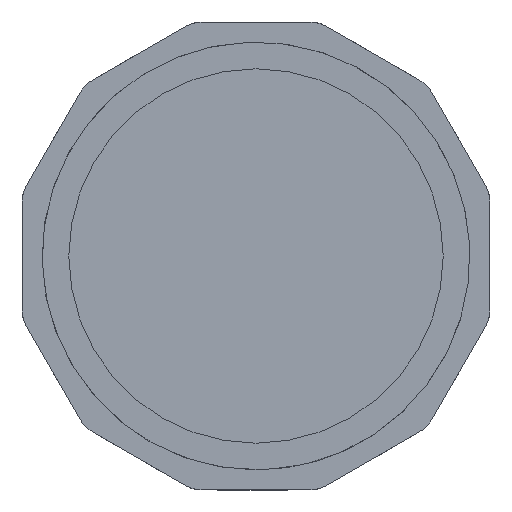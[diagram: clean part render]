
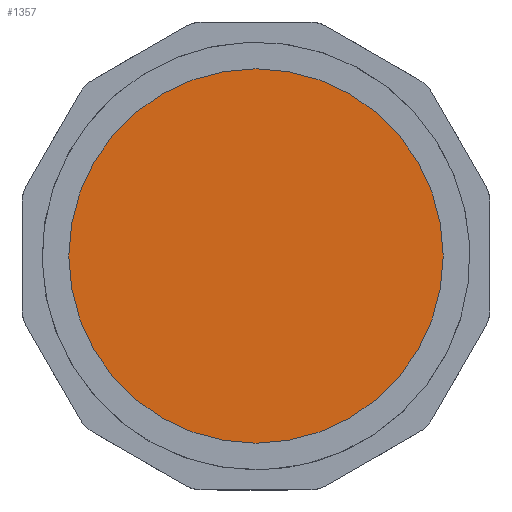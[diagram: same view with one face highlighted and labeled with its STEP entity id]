
A CAD part, front view. The second image highlights one B-rep face of the part: STEP entity #1357.
In plain terms, the highlighted planar face has unit normal (0, -1, 0).
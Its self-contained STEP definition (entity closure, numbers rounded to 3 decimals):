
#255 = CIRCLE ( 'NONE', #1270, 14. ) ;
#256 = ORIENTED_EDGE ( 'NONE', *, *, #813, .T. ) ;
#272 = VERTEX_POINT ( 'NONE', #1480 ) ;
#292 = DIRECTION ( 'NONE',  ( 0., 0., -1. ) ) ;
#347 = PLANE ( 'NONE',  #764 ) ;
#355 = FACE_OUTER_BOUND ( 'NONE', #1087, .T. ) ;
#438 = CARTESIAN_POINT ( 'NONE',  ( 0., 20.25, 0. ) ) ;
#469 = DIRECTION ( 'NONE',  ( 1., 0., 0. ) ) ;
#504 = VERTEX_POINT ( 'NONE', #562 ) ;
#562 = CARTESIAN_POINT ( 'NONE',  ( 0., 20.25, -14. ) ) ;
#564 = DIRECTION ( 'NONE',  ( 0., -1., 0. ) ) ;
#612 = DIRECTION ( 'NONE',  ( 0., -1., 0. ) ) ;
#739 = AXIS2_PLACEMENT_3D ( 'NONE', #438, #564, #900 ) ;
#764 = AXIS2_PLACEMENT_3D ( 'NONE', #836, #939, #469 ) ;
#813 = EDGE_CURVE ( 'NONE', #504, #272, #255, .T. ) ;
#836 = CARTESIAN_POINT ( 'NONE',  ( 0., 20.25, 0. ) ) ;
#861 = ORIENTED_EDGE ( 'NONE', *, *, #1320, .T. ) ;
#900 = DIRECTION ( 'NONE',  ( 0., 0., 1. ) ) ;
#939 = DIRECTION ( 'NONE',  ( 0., -1., 0. ) ) ;
#1087 = EDGE_LOOP ( 'NONE', ( #256, #861 ) ) ;
#1215 = CARTESIAN_POINT ( 'NONE',  ( 0., 20.25, 0. ) ) ;
#1216 = CIRCLE ( 'NONE', #739, 14. ) ;
#1270 = AXIS2_PLACEMENT_3D ( 'NONE', #1215, #612, #292 ) ;
#1320 = EDGE_CURVE ( 'NONE', #272, #504, #1216, .T. ) ;
#1357 = ADVANCED_FACE ( 'NONE', ( #355 ), #347, .T. ) ;
#1480 = CARTESIAN_POINT ( 'NONE',  ( 0., 20.25, 14. ) ) ;
